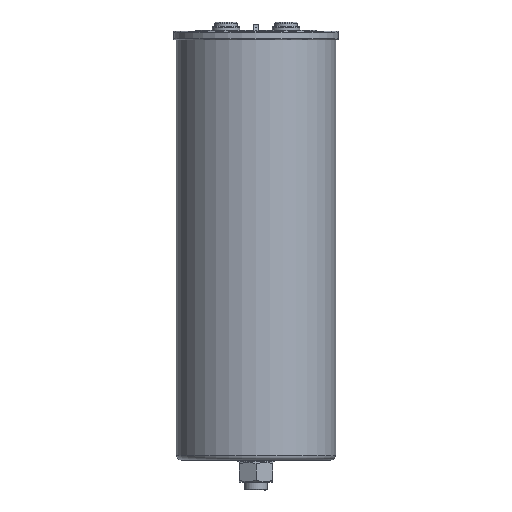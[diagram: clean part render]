
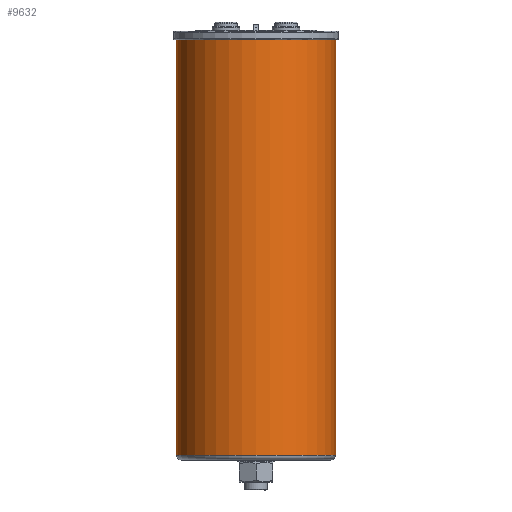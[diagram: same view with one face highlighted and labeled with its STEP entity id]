
A CAD part, left-side view. The second image highlights one B-rep face of the part: STEP entity #9632.
In plain terms, the highlighted cylindrical face has radius 42.5 mm (diameter 85 mm), a partial arc.
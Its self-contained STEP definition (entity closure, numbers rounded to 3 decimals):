
#285 = VECTOR ( 'NONE', #872, 1000. ) ;
#306 = EDGE_CURVE ( 'NONE', #8387, #4441, #7333, .T. ) ;
#872 = DIRECTION ( 'NONE',  ( 0., 0., -1. ) ) ;
#1655 = DIRECTION ( 'NONE',  ( 0., 0., -1. ) ) ;
#1866 = EDGE_CURVE ( 'NONE', #9634, #8387, #14557, .T. ) ;
#1931 = EDGE_CURVE ( 'NONE', #1978, #4441, #2001, .T. ) ;
#1978 = VERTEX_POINT ( 'NONE', #10261 ) ;
#2001 = CIRCLE ( 'NONE', #12004, 42.5 ) ;
#3396 = EDGE_LOOP ( 'NONE', ( #3817, #14875, #5593, #9062 ) ) ;
#3552 = AXIS2_PLACEMENT_3D ( 'NONE', #9876, #13277, #5082 ) ;
#3817 = ORIENTED_EDGE ( 'NONE', *, *, #1866, .F. ) ;
#4088 = CARTESIAN_POINT ( 'NONE',  ( 0., 42.5, 0. ) ) ;
#4391 = DIRECTION ( 'NONE',  ( 0., 0., 1. ) ) ;
#4441 = VERTEX_POINT ( 'NONE', #13456 ) ;
#5082 = DIRECTION ( 'NONE',  ( 0., -1., 0. ) ) ;
#5593 = ORIENTED_EDGE ( 'NONE', *, *, #1931, .T. ) ;
#5907 = FACE_OUTER_BOUND ( 'NONE', #3396, .T. ) ;
#5980 = AXIS2_PLACEMENT_3D ( 'NONE', #8845, #6477, #14667 ) ;
#6477 = DIRECTION ( 'NONE',  ( 0., 0., 1. ) ) ;
#7333 = LINE ( 'NONE', #7819, #285 ) ;
#7819 = CARTESIAN_POINT ( 'NONE',  ( 0., -42.5, -225. ) ) ;
#8387 = VERTEX_POINT ( 'NONE', #11473 ) ;
#8778 = LINE ( 'NONE', #14489, #11143 ) ;
#8845 = CARTESIAN_POINT ( 'NONE',  ( 0., 0., 0. ) ) ;
#9062 = ORIENTED_EDGE ( 'NONE', *, *, #306, .F. ) ;
#9632 = ADVANCED_FACE ( 'NONE', ( #5907 ), #14441, .T. ) ;
#9634 = VERTEX_POINT ( 'NONE', #4088 ) ;
#9876 = CARTESIAN_POINT ( 'NONE',  ( 0., 0., -225. ) ) ;
#10246 = EDGE_CURVE ( 'NONE', #9634, #1978, #8778, .T. ) ;
#10261 = CARTESIAN_POINT ( 'NONE',  ( 0., 42.5, -222.5 ) ) ;
#11143 = VECTOR ( 'NONE', #1655, 1000. ) ;
#11298 = CARTESIAN_POINT ( 'NONE',  ( 0., 0., -222.5 ) ) ;
#11473 = CARTESIAN_POINT ( 'NONE',  ( 0., -42.5, 0. ) ) ;
#12004 = AXIS2_PLACEMENT_3D ( 'NONE', #11298, #4391, #12471 ) ;
#12471 = DIRECTION ( 'NONE',  ( 0., -1., 0. ) ) ;
#13277 = DIRECTION ( 'NONE',  ( 0., 0., -1. ) ) ;
#13456 = CARTESIAN_POINT ( 'NONE',  ( 0., -42.5, -222.5 ) ) ;
#14441 = CYLINDRICAL_SURFACE ( 'NONE', #3552, 42.5 ) ;
#14489 = CARTESIAN_POINT ( 'NONE',  ( 0., 42.5, -225. ) ) ;
#14557 = CIRCLE ( 'NONE', #5980, 42.5 ) ;
#14667 = DIRECTION ( 'NONE',  ( 0., 1., 0. ) ) ;
#14875 = ORIENTED_EDGE ( 'NONE', *, *, #10246, .T. ) ;
